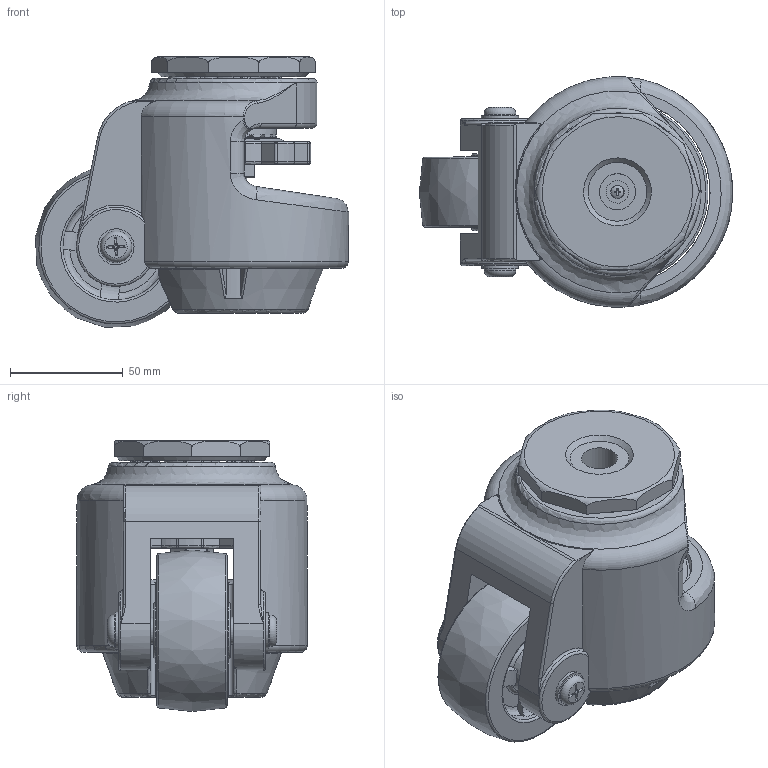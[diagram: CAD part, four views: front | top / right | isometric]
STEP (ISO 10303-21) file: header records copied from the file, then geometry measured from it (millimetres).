
FILE_DESCRIPTION((' '),'2;1');
FILE_NAME('Y:\00. A standard brand\06. 3D Modeling\외부전송용_STEP\CARRYMASTER(STEP)\AC-1000S.stp.stp','2011-11-22T13:41:39',(' '),(' '),' ','ACIS',' ');
FILE_SCHEMA(('CONFIG_CONTROL_DESIGN'));
Length unit declared in the file: millimetre
Products named in the file (1): Y:\00. A standard brand\06. 3D Modeling\외부전송용_STEP\CARRYMASTER(STEP)\AC-1000S.stp.stp
Bounding box: 138.69 x 102 x 119.89 mm (x, y, z)
Volume: 624751.9 mm3; surface area: 137068.7 mm2
Topology: 5 solids, 8 shells, 745 faces, 1810 edges, 1071 vertices
Faces by surface type: plane 251, cylinder 221, bspline 110, sphere 78, torus 71, cone 14
Full cylindrical faces by diameter (mm): 2.75 x1, 8 x1, 9 x1, 10 x2, 12 x2, 12.2 x1, 13 x2, 14 x2, 16 x2, 16.5 x1, 20 x2, 21 x1, 24.5 x1, 25 x3, 30 x1, 38 x1, 40 x1, 40.14 x1, 41.34 x1, 41.5 x1, 47 x2
Entity records: 26194 total; most frequent: CARTESIAN_POINT 9647, DIRECTION 3560, ORIENTED_EDGE 3298, EDGE_CURVE 1649, AXIS2_PLACEMENT_3D 1448, VERTEX_POINT 1003, EDGE_LOOP 858, CIRCLE 775
